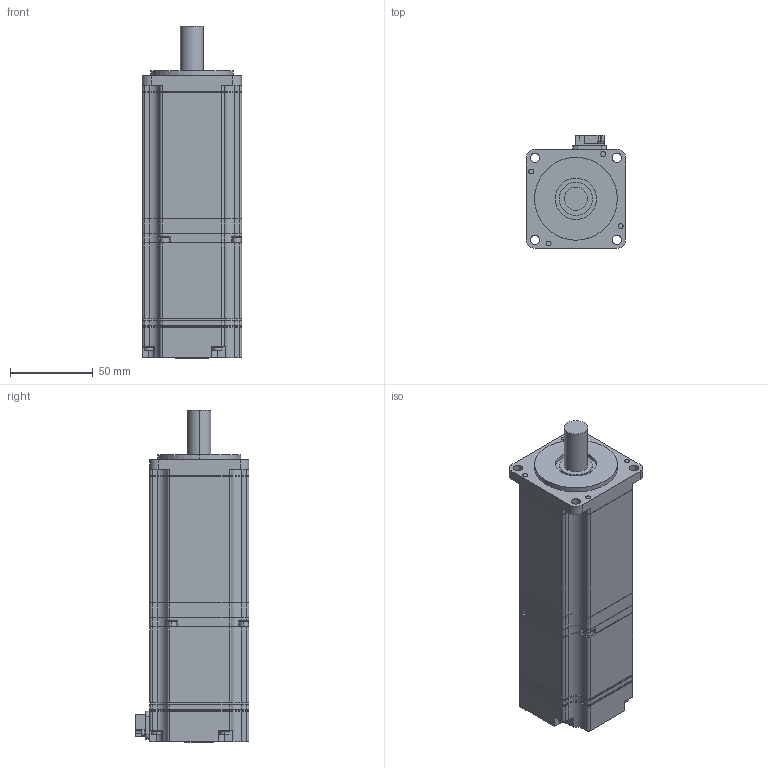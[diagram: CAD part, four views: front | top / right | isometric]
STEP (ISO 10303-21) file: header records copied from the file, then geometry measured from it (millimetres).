
FILE_DESCRIPTION (( 'STEP AP203' ), '1' );
FILE_NAME ('sgmjv_06a_a2c.STEP', '2011-07-05T01:20:49', ( '匠エンジニアリング山之内' ), ( 'TAKUMI-Engniaring' ), 'SwSTEP 2.0', 'SolidWorks 2006303', '' );
FILE_SCHEMA (( 'CONFIG_CONTROL_DESIGN' ));
Length unit declared in the file: millimetre
Products named in the file (1): sgmjv_06a_a2c
Bounding box: 60.1 x 68.8 x 200.6 mm (x, y, z)
Volume: 553748.6 mm3; surface area: 52939.6 mm2
Topology: 1 solids, 1 shells, 634 faces, 1742 edges, 1152 vertices
Faces by surface type: plane 344, cylinder 290
Entity records: 20389 total; most frequent: DIRECTION 3618, CARTESIAN_POINT 3543, ORIENTED_EDGE 3484, EDGE_CURVE 1742, AXIS2_PLACEMENT_3D 1243, VERTEX_POINT 1152, VECTOR 1132, LINE 1132
